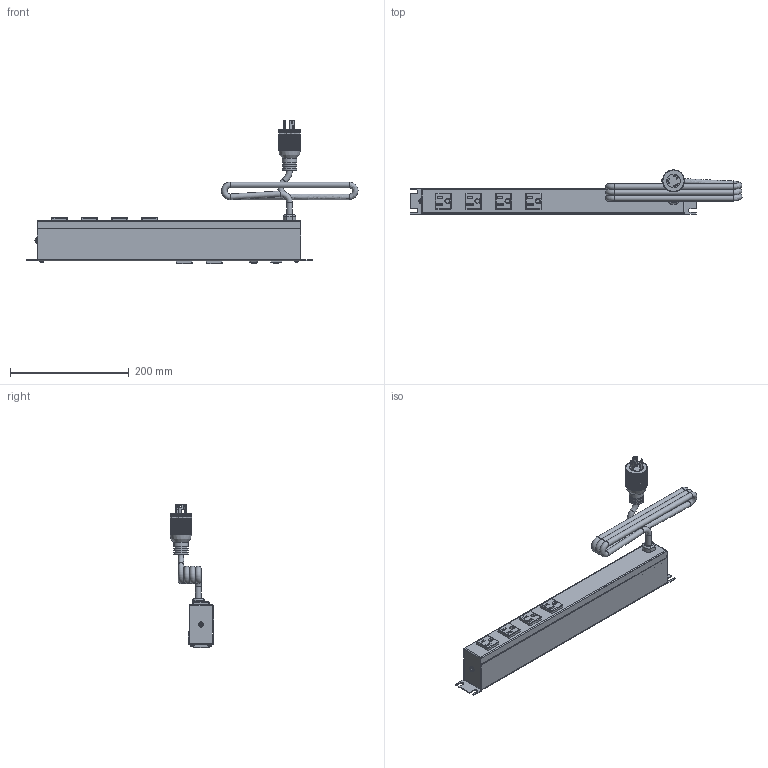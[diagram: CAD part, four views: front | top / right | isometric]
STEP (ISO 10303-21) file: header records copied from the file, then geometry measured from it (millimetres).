
FILE_DESCRIPTION((''),'2;1');
FILE_NAME('E:\Dutton\Manufacturing\drawings\Updated 2009\POWER BARS\1583 X series\STEP''s\1583H6C1BKX.stp','2010-01-08T10:14:24',('tfoster'),(''),'Autodesk Inventor 2010','Autodesk Inventor 2010','');
FILE_SCHEMA(('AUTOMOTIVE_DESIGN { 1 0 10303 214 1 1 1 1 }'));
Products named in the file (12): 1583H6C1BKX; 1583H6 Front plate; 1583H6 Back Plate; #6 - 0.375 Type A screw; toothwasher; round head 1-way 8-32 x 0.5 screw; Power Switch Assembly; Power Switch; Power Switch pt; Reset Switch; Twist Cored 2; Receptacle
Assembly tree (19 placements, depth 3):
  1583H6C1BKX
    1583H6 Front plate
    1583H6 Back Plate
    #6 - 0.375 Type A screw  x4
    toothwasher
    round head 1-way 8-32 x 0.5 screw
    Power Switch Assembly
      Power Switch
      Power Switch pt
    Reset Switch
    Twist Cored 2
    Receptacle  x6
Bounding box: 560.01 x 74.07 x 242.61 mm (x, y, z)
Volume: 394892 mm3; surface area: 308192.4 mm2
Topology: 18 solids, 18 shells, 1109 faces, 3140 edges, 2075 vertices
Faces by surface type: plane 753, cylinder 211, bspline 78, sphere 29, cone 23, torus 15
Full cylindrical faces by diameter (mm): 1 x2, 1.803 x3, 1.905 x2, 2.286 x1, 2.997 x4, 3.175 x3, 4.3 x1, 4.801 x1, 5.563 x4, 7.849 x1, 9.5 x5, 11 x1, 21.59 x2, 22.86 x1, 24.765 x3
Entity records: 27805 total; most frequent: CARTESIAN_POINT 8308, ORIENTED_EDGE 4124, DIRECTION 3720, EDGE_CURVE 2062, VERTEX_POINT 1405, VECTOR 1342, LINE 1342, AXIS2_PLACEMENT_3D 1189
